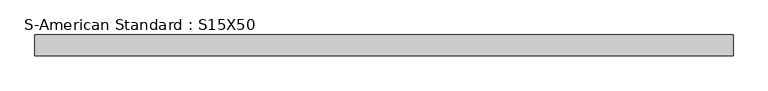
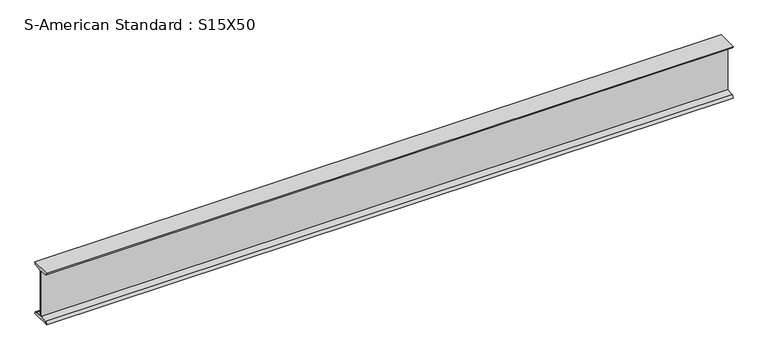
"""IFC4 building model written with IfcOpenShell, lengths in millimetres: beam geometry, S-American Standard : S15X50."""

from ifc_helpers import new_model, si_unit, point, frame, frame_2d, origin, place, context, project, spatial, polyline, circle_curve, trimmed, segment, composite_curve, outline, extrude, source, transform, mapped, element, save


def s_american_standard_s15x50_5335cbeb(model_context):
    return source(origin(), model_context, "Body", "SweptSolid", [
        extrude(outline(composite_curve([segment(polyline([(-71.628, 190.5), (71.628, 190.5)]), True, "CONTINUOUS"), segment(trimmed(circle_curve(frame_2d((55.8292, 190.5)), 15.7988), [point((71.628, 190.5))], [point((55.8292, 174.7012))], False, "CARTESIAN"), True, "CONTINUOUS"), segment(polyline([(55.8292, 174.7012), (6.985, 166.9650387), (6.985, -166.9650387), (55.8292, -174.7012)]), True, "CONTINUOUS"), segment(trimmed(circle_curve(frame_2d((55.8292, -190.5)), 15.7988), [point((55.8292, -174.7012))], [point((71.628, -190.5))], False, "CARTESIAN"), True, "CONTINUOUS"), segment(polyline([(71.628, -190.5), (-71.628, -190.5)]), True, "CONTINUOUS"), segment(trimmed(circle_curve(frame_2d((-55.8292, -190.5)), 15.7988), [point((-71.628, -190.5))], [point((-55.8292, -174.7012))], False, "CARTESIAN"), True, "CONTINUOUS"), segment(polyline([(-55.8292, -174.7012), (-6.985, -166.9650387), (-6.985, 166.9650387), (-55.8292, 174.7012)]), True, "CONTINUOUS"), segment(trimmed(circle_curve(frame_2d((-55.8292, 190.5)), 15.7988), [point((-55.8292, 174.7012))], [point((-71.628, 190.5))], False, "CARTESIAN"), True, "CONTINUOUS")], self_intersect=False)), frame((-2480.5882073, 0.0, 0.0), z_axis=(1.0, 0.0, 0.0), x_axis=(0.0, 1.0, 0.0)), (0.0, 0.0, 1.0), 4814.6379536),
    ])


if __name__ == "__main__":
    model = new_model("IFC4")
    model_context = context("Model", 3, world=origin())
    ifc_project = project(units=[si_unit("LENGTHUNIT", "METRE", prefix="MILLI")], contexts=[model_context])
    site = spatial("IfcSite", under=ifc_project)
    building = spatial("IfcBuilding", under=site)
    placement = place(None, origin())
    s_american_standard_s15x50_shape = s_american_standard_s15x50_5335cbeb(model_context)
    element("IfcBeam", 1, ObjectType="S-American Standard : S15X50", at=placement, inside=building, context=model_context, shape_type="MappedRepresentation", body=[
        mapped(s_american_standard_s15x50_shape, transform((0.0, 0.0, 0.0), x_axis=(1.0, 0.0, 0.0), y_axis=(0.0, 1.0, 0.0), z_axis=(0.0, 0.0, 1.0))),
    ])
    save(model, "model.ifc")
